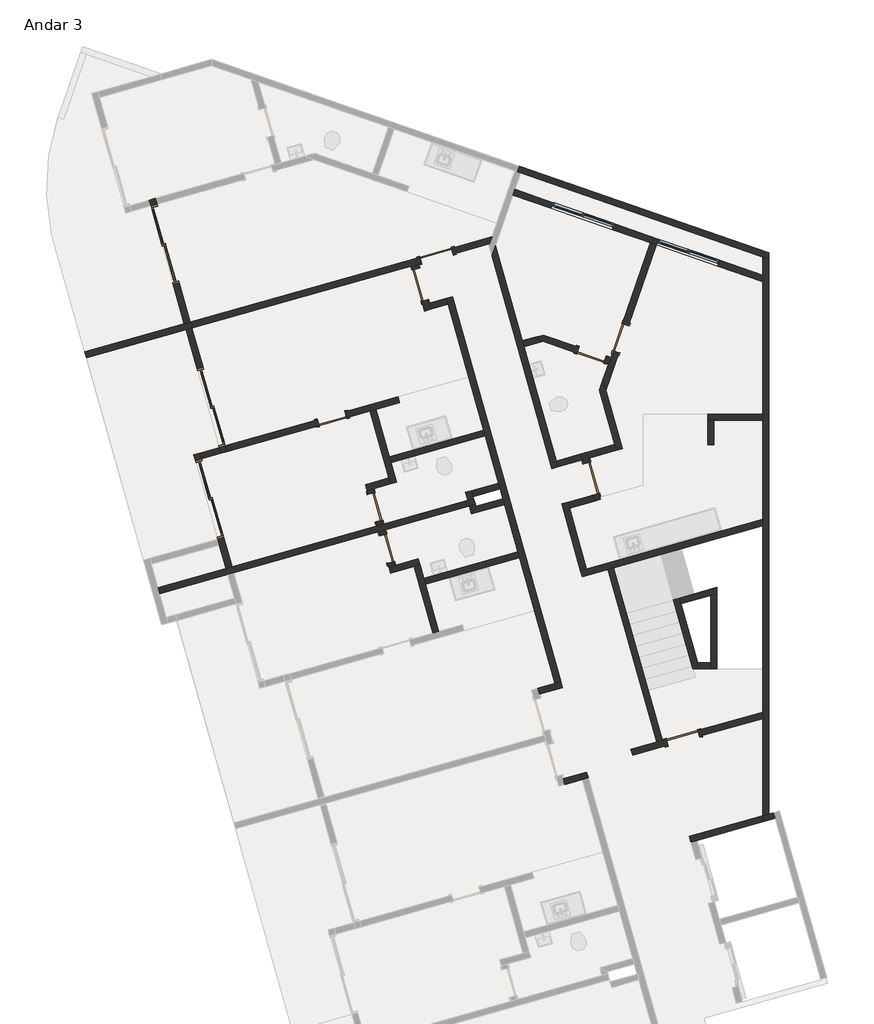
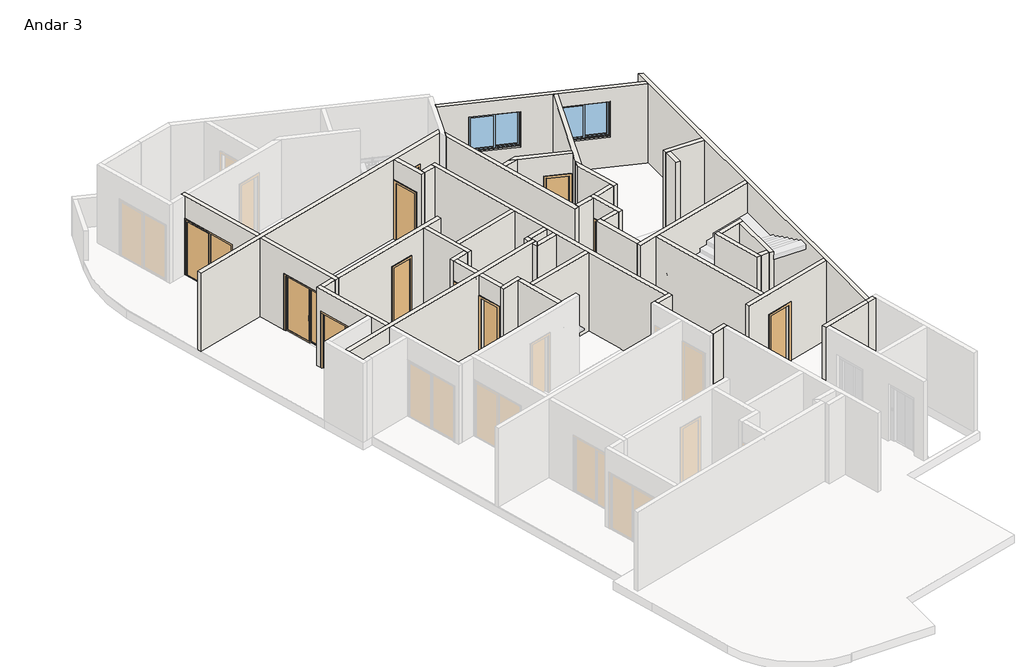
# One storey, part 2 of 3: 48 walls, 12 doors, 2 windows.
"""IFC4 building model written with IfcOpenShell, lengths in millimetres."""

from ifc_helpers import new_model, si_unit, frame, origin, place, context, project, spatial, polyline, outline, extrude, faceted_brep, transform, mapped, element, save
from components import p2_80cm_9d4be4ef, p2_80cm_083652d6, p3_70cm_ef4d15e3, p3_70cm_0a698c7c, p4_correr_200cm_eaaa0877, jx_160cm_e9e36a0c

model = new_model("IFC4")

# Units and contexts
model_context = context("Model", 3, world=origin())
ifc_project = project(units=[si_unit("LENGTHUNIT", "METRE", prefix="MILLI")], contexts=[model_context])

# Site, building, storey
site = spatial("IfcSite", under=ifc_project)
building = spatial("IfcBuilding", under=site)
storey = spatial("IfcBuildingStorey", under=building, Name="Andar 3", Elevation=59450.0)

# Doors
placement = place(None, origin())
p2_80cm_shape = p2_80cm_9d4be4ef(model_context)
element("IfcDoor", 1, ObjectType="M_Folha única1 : P2 - 80CM", at=placement, inside=storey, context=model_context, shape_type="MappedRepresentation", body=[
    mapped(p2_80cm_shape, transform((-83145.1128896, 30941.0402894, 59450.0), x_axis=(-0.9623628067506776, -0.2717679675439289, 0.0), y_axis=(0.2717679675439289, -0.9623628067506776, 0.0), z_axis=(0.0, 0.0, 1.0))),
])
element("IfcDoor", 2, ObjectType="M_Folha única1 : P2 - 80CM", at=placement, inside=storey, context=model_context, shape_type="MappedRepresentation", body=[
    mapped(p2_80cm_shape, transform((-79349.4097406, 25479.1041247, 59450.0), x_axis=(-0.27176796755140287, 0.962362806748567, 0.0), y_axis=(-0.962362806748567, -0.27176796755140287, 0.0), z_axis=(0.0, 0.0, 1.0))),
])
p2_80cm_2_shape = p2_80cm_083652d6(model_context)
element("IfcDoor", 3, ObjectType="M_Folha única1 : P2 - 80CM", at=placement, inside=storey, context=model_context, shape_type="MappedRepresentation", body=[
    mapped(p2_80cm_2_shape, transform((-83542.2049222, 30231.4150941, 59450.0), x_axis=(-0.2717679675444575, 0.9623628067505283, 0.0), y_axis=(-0.9623628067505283, -0.2717679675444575, 0.0), z_axis=(0.0, 0.0, 1.0))),
])
p3_70cm_shape = p3_70cm_ef4d15e3(model_context)
element("IfcDoor", 4, ObjectType="M_Folha única1 : P3 - 70CM", at=placement, inside=storey, context=model_context, shape_type="MappedRepresentation", body=[
    mapped(p3_70cm_shape, transform((-84650.97864, 24774.7108835, 59450.0), x_axis=(0.2717679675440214, -0.9623628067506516, 0.0), y_axis=(0.9623628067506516, 0.2717679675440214, 0.0), z_axis=(0.0, 0.0, 1.0))),
])
p3_70cm_2_shape = p3_70cm_0a698c7c(model_context)
element("IfcDoor", 5, ObjectType="M_Folha única1 : P3 - 70CM", at=placement, inside=storey, context=model_context, shape_type="MappedRepresentation", body=[
    mapped(p3_70cm_2_shape, transform((-84365.6222741, 23764.2299364, 59450.0), x_axis=(-0.2717679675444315, 0.9623628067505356, 0.0), y_axis=(-0.9623628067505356, -0.2717679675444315, 0.0), z_axis=(0.0, 0.0, 1.0))),
])
element("IfcDoor", 6, ObjectType="M_Folha única1 : P3 - 70CM", at=placement, inside=storey, context=model_context, shape_type="MappedRepresentation", body=[
    mapped(p3_70cm_2_shape, transform((-85705.4317558, 26944.8211633, 59450.0), x_axis=(0.9623628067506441, 0.2717679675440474, 0.0), y_axis=(-0.2717679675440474, 0.9623628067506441, 0.0), z_axis=(0.0, 0.0, 1.0))),
])
element("IfcDoor", 7, ObjectType="M_Folha única1 : P3 - 70CM", at=placement, inside=storey, context=model_context, shape_type="MappedRepresentation", body=[
    mapped(p3_70cm_2_shape, transform((-79346.1223746, 28509.6973665, 59450.0), x_axis=(0.9449109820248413, -0.32732741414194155, 0.0), y_axis=(0.32732741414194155, 0.9449109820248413, 0.0), z_axis=(0.0, 0.0, 1.0))),
])
element("IfcDoor", 8, ObjectType="M_Folha única1 : P3 - 70CM", at=placement, inside=storey, context=model_context, shape_type="MappedRepresentation", body=[
    mapped(p3_70cm_2_shape, transform((-78626.5662556, 28921.8732895, 59450.0), x_axis=(-0.32732741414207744, -0.9449109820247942, 0.0), y_axis=(0.9449109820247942, -0.32732741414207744, 0.0), z_axis=(0.0, 0.0, 1.0))),
])
p4_correr_200cm_shape = p4_correr_200cm_eaaa0877(model_context)
element("IfcDoor", 9, ObjectType="Porta de correr dupla envidraçada sem revestimento : P4 - CORRER - 200CM", at=placement, inside=storey, context=model_context, shape_type="MappedRepresentation", body=[
    mapped(p4_correr_200cm_shape, transform((-89799.7974026, 31217.9316171, 59450.0), x_axis=(0.27176796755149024, -0.9623628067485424, 0.0), y_axis=(0.9623628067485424, 0.27176796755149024, 0.0), z_axis=(0.0, 0.0, 1.0))),
])
element("IfcDoor", 10, ObjectType="Porta de correr dupla envidraçada sem revestimento : P4 - CORRER - 200CM", at=placement, inside=storey, context=model_context, shape_type="MappedRepresentation", body=[
    mapped(p4_correr_200cm_shape, transform((-88671.9603372, 27224.125969, 59450.0), x_axis=(-0.27176796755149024, 0.9623628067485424, 0.0), y_axis=(-0.9623628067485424, -0.27176796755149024, 0.0), z_axis=(0.0, 0.0, 1.0))),
])
element("IfcDoor", 11, ObjectType="Porta de correr dupla envidraçada sem revestimento : P4 - CORRER - 200CM", at=placement, inside=storey, context=model_context, shape_type="MappedRepresentation", body=[
    mapped(p4_correr_200cm_shape, transform((-88709.3738038, 24979.4758572, 59450.0), x_axis=(-0.2717679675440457, 0.9623628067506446, 0.0), y_axis=(-0.9623628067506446, -0.2717679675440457, 0.0), z_axis=(0.0, 0.0, 1.0))),
])
element("IfcDoor", 12, ObjectType="M_Folha única1 : PCF1 - 80CM", at=placement, inside=storey, context=model_context, shape_type="MappedRepresentation", body=[
    mapped(p2_80cm_shape, transform((-77103.5502958, 19127.1105693, 59450.0), x_axis=(-0.9623628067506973, -0.2717679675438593, 0.0), y_axis=(0.2717679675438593, -0.9623628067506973, 0.0), z_axis=(0.0, 0.0, 1.0))),
])

# Walls
element("IfcWall", 13, ObjectType="Básica .15 -  Interna", at=placement, inside=storey, context=model_context, shape_type="Brep", body=[
    faceted_brep([(-82901.0804648, 29892.9118737, 59450.0), (-82860.3152697, 29748.5574527, 59450.0), (-81990.6577736, 26668.9964711, 59450.0), (-81949.8925784, 26524.6420501, 59450.0), (-81623.7710174, 25369.806682, 59450.0), (-81583.0058223, 25225.452261, 59450.0), (-81515.0638304, 24984.8615593, 59450.0), (-81474.2986352, 24840.5071383, 59450.0), (-81148.1770742, 23685.6717702, 59450.0), (-81107.4118791, 23541.3173492, 59450.0), (-80237.7543829, 20461.7563676, 59450.0), (-80237.7543829, 20461.7563676, 62350.0), (-81107.4118791, 23541.3173492, 62350.0), (-81148.1770742, 23685.6717702, 62350.0), (-81474.2986352, 24840.5071383, 62350.0), (-81515.0638304, 24984.8615593, 62350.0), (-81583.0058223, 25225.452261, 62350.0), (-81623.7710174, 25369.806682, 62350.0), (-81949.8925784, 26524.6420501, 62350.0), (-81990.6577736, 26668.9964711, 62350.0), (-82860.3152697, 29748.5574527, 62350.0), (-82901.0804648, 29892.9118737, 62350.0), (-82756.7260438, 29933.6770689, 59450.0), (-82756.7260438, 29933.6770689, 62350.0), (-80093.3999619, 20502.5215627, 62350.0), (-80093.3999619, 20502.5215627, 59450.0)], [[[0, 1, 2, 3, 4, 5, 6, 7, 8, 9, 10, 11, 12, 13, 14, 15, 16, 17, 18, 19, 20, 21]], [[22, 23, 24, 25]], [[10, 9, 8, 7, 6, 5, 4, 3, 2, 1, 0, 22, 25]], [[21, 20, 19, 18, 17, 16, 15, 14, 13, 12, 11, 24, 23]], [[0, 21, 23, 22]], [[11, 10, 25, 24]]]),
])
element("IfcWall", 14, ObjectType="Básica .15 -  Interna", at=placement, inside=storey, context=model_context, shape_type="Brep", body=[
    faceted_brep([(-83750.2661164, 30692.2138999, 59450.0), (-83723.0893197, 30595.9776193, 59450.0), (-83723.0893197, 30595.9776193, 61550.0), (-83505.6749457, 29826.0873739, 61550.0), (-83505.6749457, 29826.0873739, 59450.0), (-83437.7329538, 29585.4966722, 59450.0), (-83437.7329538, 29585.4966722, 62350.0), (-83750.2661164, 30692.2138999, 62350.0), (-83578.7348987, 30636.7428144, 61550.0), (-83578.7348987, 30636.7428144, 59450.0), (-83605.9116954, 30732.9790951, 59450.0), (-83605.9116954, 30732.9790951, 62350.0), (-83334.1437279, 29770.6162883, 62350.0), (-83293.3785328, 29626.2618673, 62350.0), (-83293.3785328, 29626.2618673, 59450.0), (-83334.1437279, 29770.6162883, 59450.0), (-83361.3205246, 29866.852569, 59450.0), (-83361.3205246, 29866.852569, 61550.0)], [[[0, 1, 2, 3, 4, 5, 6, 7]], [[8, 9, 10, 11, 12, 13, 14, 15, 16, 17]], [[10, 9, 1, 0]], [[16, 15, 14, 5, 4]], [[7, 6, 13, 12, 11]], [[6, 5, 14, 13]], [[0, 7, 11, 10]], [[2, 1, 9, 8]], [[3, 2, 8, 17]], [[4, 3, 17, 16]]]),
])
element("IfcWall", 15, ObjectType="Básica .15 -  Interna", at=placement, inside=storey, context=model_context, shape_type="SweptSolid", body=[
    extrude(outline(polyline([(-82860.3152697, 29748.5574527), (-83293.3785328, 29626.2618673), (-83334.1437279, 29770.6162883), (-82901.0804648, 29892.9118737), (-82860.3152697, 29748.5574527)])), frame((0.0, 0.0, 59450.0), z_axis=(0.0, 0.0, 1.0), x_axis=(1.0, 0.0, 0.0)), (0.0, 0.0, 1.0), 2900.0),
])
element("IfcWall", 16, ObjectType="Básica .15 -  Interna", at=placement, inside=storey, context=model_context, shape_type="Brep", body=[
    faceted_brep([(-80093.3999619, 20502.5215627, 59450.0), (-80237.7543829, 20461.7563676, 59450.0), (-80670.817646, 20339.4607822, 59450.0), (-80670.817646, 20339.4607822, 62350.0), (-80237.7543829, 20461.7563676, 62350.0), (-80093.3999619, 20502.5215627, 62350.0), (-80052.6347668, 20358.1671417, 59450.0), (-80052.6347668, 20358.1671417, 62350.0), (-80630.0524508, 20195.1063612, 62350.0), (-80630.0524508, 20195.1063612, 59450.0)], [[[0, 1, 2, 3, 4, 5]], [[6, 7, 8, 9]], [[2, 1, 0, 6, 9]], [[5, 4, 3, 8, 7]], [[3, 2, 9, 8]], [[0, 5, 7, 6]]]),
])
element("IfcWall", 17, ObjectType="Básica .15 -  Interna", at=placement, inside=storey, context=model_context, shape_type="Brep", body=[
    faceted_brep([(-80004.9861255, 17981.6719056, 59450.0), (-79571.9228624, 18103.967491, 59450.0), (-79427.5684414, 18144.7326862, 59450.0), (-79427.5684414, 18144.7326862, 62350.0), (-79571.9228624, 18103.967491, 62350.0), (-80004.9861255, 17981.6719056, 62350.0), (-80045.7513206, 18126.0263266, 59450.0), (-80045.7513206, 18126.0263266, 62350.0), (-79468.3336366, 18289.0871072, 62350.0), (-79468.3336366, 18289.0871072, 59450.0)], [[[0, 1, 2, 3, 4, 5]], [[6, 7, 8, 9]], [[2, 1, 0, 6, 9]], [[5, 4, 3, 8, 7]], [[3, 2, 9, 8]], [[0, 5, 7, 6]]]),
])
element("IfcWall", 18, ObjectType="Básica .15 -  Interna", at=placement, inside=storey, context=model_context, shape_type="Brep", body=[
    faceted_brep([(-88305.9570711, 23274.9583478, 62350.0), (-88469.0178517, 23852.3760319, 62350.0), (-88509.7830468, 23996.7304529, 62350.0), (-89094.084177, 26065.8104874, 62350.0), (-89094.084177, 26065.8104874, 59450.0), (-89053.3189819, 25921.4560664, 59450.0), (-89053.3189819, 25921.4560664, 61550.0), (-88509.7830468, 23996.7304529, 61550.0), (-88509.7830468, 23996.7304529, 59450.0), (-88469.0178517, 23852.3760319, 59450.0), (-88305.9570711, 23274.9583478, 59450.0), (-88949.729756, 26106.5756825, 62350.0), (-88908.9645609, 25962.2212615, 62350.0), (-88161.6026501, 23315.723543, 62350.0), (-88161.6026501, 23315.723543, 59450.0), (-88365.4286258, 24037.495648, 59450.0), (-88365.4286258, 24037.495648, 61550.0), (-88908.9645609, 25962.2212615, 61550.0), (-88908.9645609, 25962.2212615, 59450.0), (-88949.729756, 26106.5756825, 59450.0)], [[[0, 1, 2, 3, 4, 5, 6, 7, 8, 9, 10]], [[11, 12, 13, 14, 15, 16, 17, 18, 19]], [[4, 19, 18, 5]], [[14, 10, 9, 8, 15]], [[3, 2, 1, 0, 13, 12, 11]], [[4, 3, 11, 19]], [[0, 10, 14, 13]], [[17, 6, 5, 18]], [[6, 17, 16, 7]], [[7, 16, 15, 8]]]),
])
element("IfcWall", 19, ObjectType="Básica .15 -  Interna", at=placement, inside=storey, context=model_context, shape_type="Brep", body=[
    faceted_brep([(-89143.3190618, 29169.2341801, 62350.0), (-88328.0151592, 26282.1457598, 62350.0), (-88287.249964, 26137.7913388, 62350.0), (-88287.249964, 26137.7913388, 59450.0), (-88328.0151592, 26282.1457598, 59450.0), (-88328.0151592, 26282.1457598, 61550.0), (-88871.5510943, 28206.8713733, 61550.0), (-88871.5510943, 28206.8713733, 59450.0), (-89143.3190618, 29169.2341801, 59450.0), (-88431.604385, 26097.0261437, 62350.0), (-88472.3695802, 26241.3805647, 62350.0), (-89287.6734828, 29128.468985, 62350.0), (-89287.6734828, 29128.468985, 59450.0), (-89015.9055153, 28166.1061782, 59450.0), (-89015.9055153, 28166.1061782, 61550.0), (-88472.3695802, 26241.3805647, 61550.0), (-88472.3695802, 26241.3805647, 59450.0), (-88431.604385, 26097.0261437, 59450.0)], [[[0, 1, 2, 3, 4, 5, 6, 7, 8]], [[9, 10, 11, 12, 13, 14, 15, 16, 17]], [[3, 17, 16, 4]], [[12, 8, 7, 13]], [[2, 1, 0, 11, 10, 9]], [[3, 2, 9, 17]], [[0, 8, 12, 11]], [[6, 14, 13, 7]], [[14, 6, 5, 15]], [[15, 5, 4, 16]]]),
])
element("IfcWall", 20, ObjectType="Básica .15 -  Interna", at=placement, inside=storey, context=model_context, shape_type="Brep", body=[
    faceted_brep([(-76904.7538909, 16570.3643175, 59450.0), (-76760.3994699, 16611.1295126, 59450.0), (-75147.8282189, 17066.5141226, 59450.0), (-75147.8282189, 17066.5141226, 62350.0), (-76760.3994699, 16611.1295126, 62350.0), (-76904.7538909, 16570.3643175, 62350.0), (-76945.5190861, 16714.7187385, 59450.0), (-76945.5190861, 16714.7187385, 62350.0), (-75147.8282189, 17222.3804954, 62350.0), (-75147.8282189, 17222.3804954, 59450.0)], [[[0, 1, 2, 3, 4, 5]], [[6, 7, 8, 9]], [[2, 1, 0, 6, 9]], [[5, 4, 3, 8, 7]], [[0, 5, 7, 6]], [[3, 2, 9, 8]]]),
])
element("IfcWall", 21, ObjectType="Básica .15 -  Interna", at=placement, inside=storey, context=model_context, shape_type="Brep", body=[
    faceted_brep([(-79570.9048554, 23078.5590693, 59450.0), (-78948.2127609, 23254.4051886, 59450.0), (-78803.8582924, 23295.1703972, 59450.0), (-75147.8282189, 24327.6207947, 59450.0), (-75147.8282189, 24327.6207947, 62350.0), (-78803.8582924, 23295.1703972, 62350.0), (-78948.2127609, 23254.4051886, 62350.0), (-79570.9048554, 23078.5590693, 62350.0), (-79611.6700506, 23222.9134903, 59450.0), (-79611.6700506, 23222.9134903, 62350.0), (-79467.3156296, 23263.6786855, 62350.0), (-75147.8282189, 24483.4871675, 62350.0), (-75147.8282189, 24483.4871675, 59450.0), (-79467.3156296, 23263.6786855, 59450.0)], [[[0, 1, 2, 3, 4, 5, 6, 7]], [[8, 9, 10, 11, 12, 13]], [[3, 2, 1, 0, 8, 13, 12]], [[7, 6, 5, 4, 11, 10, 9]], [[0, 7, 9, 8]], [[4, 3, 12, 11]]]),
])
element("IfcWall", 22, ObjectType="Básica .15 -  Interna", at=placement, inside=storey, context=model_context, shape_type="SweptSolid", body=[
    extrude(outline(polyline([(-77749.4687652, 19022.6385875), (-78948.2127609, 23254.4051886), (-78803.8582924, 23295.1703972), (-77605.1142967, 19063.4037961), (-77749.4687652, 19022.6385875)])), frame((0.0, 0.0, 59450.0), z_axis=(0.0, 0.0, 1.0), x_axis=(1.0, 0.0, 0.0)), (0.0, 0.0, 1.0), 2900.0),
])
element("IfcWall", 23, ObjectType="Básica .15 -  Interna", at=placement, inside=storey, context=model_context, shape_type="Brep", body=[
    faceted_brep([(-77508.878016, 19090.5805928, 61550.0), (-77508.878016, 19090.5805928, 59450.0), (-77605.1142967, 19063.4037961, 59450.0), (-77749.4687652, 19022.6385875, 59450.0), (-78375.5945972, 18845.8227925, 59450.0), (-78375.5945972, 18845.8227925, 62350.0), (-77749.4687652, 19022.6385875, 62350.0), (-77605.1142967, 19063.4037961, 62350.0), (-75147.8282189, 19757.3329862, 62350.0), (-75147.8282189, 19757.3329862, 59450.0), (-76738.9877706, 19307.9949669, 59450.0), (-76738.9877706, 19307.9949669, 61550.0), (-78334.829402, 18701.4683715, 59450.0), (-77468.1128209, 18946.2261718, 59450.0), (-77468.1128209, 18946.2261718, 61550.0), (-76698.2225755, 19163.6405459, 61550.0), (-76698.2225755, 19163.6405459, 59450.0), (-75147.8282189, 19601.4666134, 59450.0), (-75147.8282189, 19601.4666134, 62350.0), (-78334.829402, 18701.4683715, 62350.0)], [[[0, 1, 2, 3, 4, 5, 6, 7, 8, 9, 10, 11]], [[12, 13, 14, 15, 16, 17, 18, 19]], [[10, 9, 17, 16]], [[4, 3, 2, 1, 13, 12]], [[5, 4, 12, 19]], [[8, 7, 6, 5, 19, 18]], [[14, 13, 1, 0]], [[15, 14, 0, 11]], [[16, 15, 11, 10]], [[9, 8, 18, 17]]]),
])
element("IfcWall", 24, ObjectType="Básica .15 - Externa", at=placement, inside=storey, context=model_context, shape_type="Brep", body=[
    faceted_brep([(-75147.8282189, 30909.9128092, 62350.0), (-75147.8282189, 30909.9128092, 59450.0), (-75147.8282189, 30461.6117638, 59450.0), (-75147.8282189, 30302.8666514, 59450.0), (-75147.8282189, 27060.8243598, 59450.0), (-75147.8282189, 26910.8243598, 59450.0), (-75147.8282189, 24483.4871675, 59450.0), (-75147.8282189, 24327.6207947, 59450.0), (-75147.8282189, 19757.3329862, 59450.0), (-75147.8282189, 19601.4666134, 59450.0), (-75147.8282189, 17222.3804954, 59450.0), (-75147.8282189, 17222.3804954, 62350.0), (-75147.8282189, 19601.4666134, 62350.0), (-75147.8282189, 19757.3329862, 62350.0), (-75147.8282189, 24327.6207947, 62350.0), (-75147.8282189, 24483.4871675, 62350.0), (-75147.8282189, 26910.8243598, 62350.0), (-75147.8282189, 27060.8243598, 62350.0), (-75147.8282189, 30302.8666514, 62350.0), (-75147.8282189, 30461.6117638, 62350.0), (-74997.8282189, 30857.9511821, 59450.0), (-74997.8282189, 30857.9511821, 60750.0), (-74997.8282189, 30857.9511821, 62050.0), (-74997.8282189, 30857.9511821, 62350.0), (-74997.8282189, 17264.7399828, 62350.0), (-74997.8282189, 17264.7399828, 59450.0)], [[[0, 1, 2, 3, 4, 5, 6, 7, 8, 9, 10, 11, 12, 13, 14, 15, 16, 17, 18, 19]], [[20, 21, 22, 23, 24, 25]], [[10, 9, 8, 7, 6, 5, 4, 3, 2, 1, 20, 25]], [[0, 19, 18, 17, 16, 15, 14, 13, 12, 11, 24, 23]], [[11, 10, 25, 24]], [[0, 23, 22, 21, 20, 1]]]),
])
element("IfcWall", 25, ObjectType="Básica .15 -  Interna", at=placement, inside=storey, context=model_context, shape_type="Brep", body=[
    faceted_brep([(-80073.6755954, 24858.9302618, 59450.0), (-79611.6700506, 23222.9134903, 59450.0), (-79611.6700506, 23222.9134903, 62350.0), (-80073.6755954, 24858.9302618, 62350.0), (-79929.3211744, 24899.695457, 59450.0), (-79929.3211744, 24899.695457, 62350.0), (-79888.5559793, 24755.3410359, 62350.0), (-79467.3156296, 23263.6786855, 62350.0), (-79467.3156296, 23263.6786855, 59450.0), (-79888.5559793, 24755.3410359, 59450.0)], [[[0, 1, 2, 3]], [[4, 5, 6, 7, 8, 9]], [[1, 0, 4, 9, 8]], [[3, 2, 7, 6, 5]], [[0, 3, 5, 4]], [[2, 1, 8, 7]]]),
])
element("IfcWall", 26, ObjectType="Básica .15 -  Interna", at=placement, inside=storey, context=model_context, shape_type="Brep", body=[
    faceted_brep([(-79888.5559793, 24755.3410359, 59450.0), (-79272.1145689, 24929.4219834, 59450.0), (-79272.1145689, 24929.4219834, 62350.0), (-79888.5559793, 24755.3410359, 62350.0), (-79929.3211744, 24899.695457, 59450.0), (-79929.3211744, 24899.695457, 62350.0), (-79312.8797641, 25073.7764044, 62350.0), (-79312.8797641, 25073.7764044, 61550.0), (-79312.8797641, 25073.7764044, 59450.0)], [[[0, 1, 2, 3]], [[4, 5, 6, 7, 8]], [[1, 0, 4, 8]], [[3, 2, 6, 5]], [[0, 3, 5, 4]], [[2, 1, 8, 7, 6]]]),
])
element("IfcWall", 27, ObjectType="Básica .15 -  Interna", at=placement, inside=storey, context=model_context, shape_type="Brep", body=[
    faceted_brep([(-79598.23613, 26084.2573515, 59450.0), (-79557.4709349, 25939.9029305, 59450.0), (-79530.2941381, 25843.6666498, 59450.0), (-79530.2941381, 25843.6666498, 61550.0), (-79312.8797641, 25073.7764044, 61550.0), (-79312.8797641, 25073.7764044, 59450.0), (-79272.1145689, 24929.4219834, 59450.0), (-79272.1145689, 24929.4219834, 62350.0), (-79312.8797641, 25073.7764044, 62350.0), (-79557.4709349, 25939.9029305, 62350.0), (-79598.23613, 26084.2573515, 62350.0), (-79385.9397171, 25884.4318449, 61550.0), (-79385.9397171, 25884.4318449, 59450.0), (-79413.1165138, 25980.6681256, 59450.0), (-79453.881709, 26125.0225466, 59450.0), (-79453.881709, 26125.0225466, 62350.0), (-79413.1165138, 25980.6681256, 62350.0), (-79127.7601479, 24970.1871785, 62350.0), (-79127.7601479, 24970.1871785, 59450.0), (-79168.5253431, 25114.5415995, 59450.0), (-79168.5253431, 25114.5415995, 61550.0)], [[[0, 1, 2, 3, 4, 5, 6, 7, 8, 9, 10]], [[11, 12, 13, 14, 15, 16, 17, 18, 19, 20]], [[19, 18, 6, 5]], [[14, 13, 12, 2, 1, 0]], [[10, 9, 8, 7, 17, 16, 15]], [[7, 6, 18, 17]], [[0, 10, 15, 14]], [[3, 2, 12, 11]], [[4, 3, 11, 20]], [[5, 4, 20, 19]]]),
])
element("IfcWall", 28, ObjectType="Básica .15 -  Interna", at=placement, inside=storey, context=model_context, shape_type="Brep", body=[
    faceted_brep([(-81789.2550074, 30934.0017027, 59450.0), (-80318.2667662, 25725.0567879, 59450.0), (-80318.2667662, 25725.0567879, 62350.0), (-81789.2550074, 30934.0017027, 62350.0), (-81703.3880158, 31181.8778654, 59450.0), (-81703.3880158, 31181.8778654, 62350.0), (-81045.1503443, 28850.9797144, 62350.0), (-81004.3851492, 28706.6252933, 62350.0), (-80214.6775403, 25910.176404, 62350.0), (-80173.9123452, 25765.821983, 62350.0), (-80173.9123452, 25765.821983, 59450.0), (-80214.6775403, 25910.176404, 59450.0), (-81004.3851492, 28706.6252933, 59450.0), (-81045.1503443, 28850.9797144, 59450.0)], [[[0, 1, 2, 3]], [[4, 5, 6, 7, 8, 9, 10, 11, 12, 13]], [[1, 0, 4, 13, 12, 11, 10]], [[3, 2, 9, 8, 7, 6, 5]], [[0, 3, 5, 4]], [[2, 1, 10, 9]]]),
])
element("IfcWall", 29, ObjectType="Básica .15 -  Interna", at=placement, inside=storey, context=model_context, shape_type="Brep", body=[
    faceted_brep([(-88908.9645609, 25962.2212615, 59450.0), (-88431.604385, 26097.0261437, 59450.0), (-88431.604385, 26097.0261437, 62350.0), (-88908.9645609, 25962.2212615, 62350.0), (-88908.9645609, 25962.2212615, 61550.0), (-88949.729756, 26106.5756825, 59450.0), (-88949.729756, 26106.5756825, 62350.0), (-88472.3695802, 26241.3805647, 62350.0), (-88472.3695802, 26241.3805647, 59450.0)], [[[0, 1, 2, 3, 4]], [[5, 6, 7, 8]], [[1, 0, 5, 8]], [[3, 2, 7, 6]], [[0, 4, 3, 6, 5]], [[2, 1, 8, 7]]]),
])
element("IfcWall", 30, ObjectType="Básica .15 -  Interna", at=placement, inside=storey, context=model_context, shape_type="SweptSolid", body=[
    extrude(outline(polyline([(-79557.4709349, 25939.9029305), (-80173.9123452, 25765.821983), (-80214.6775403, 25910.176404), (-79598.23613, 26084.2573515), (-79557.4709349, 25939.9029305)])), frame((0.0, 0.0, 59450.0), z_axis=(0.0, 0.0, 1.0), x_axis=(1.0, 0.0, 0.0)), (0.0, 0.0, 1.0), 2900.0),
])
element("IfcWall", 31, ObjectType="Básica .15 -  Interna", at=placement, inside=storey, context=model_context, shape_type="Brep", body=[
    faceted_brep([(-91725.2428613, 28440.1077234, 59450.0), (-89287.6734828, 29128.468985, 59450.0), (-89143.3190618, 29169.2341801, 59450.0), (-83750.2661164, 30692.2138999, 59450.0), (-83605.9116954, 30732.9790951, 59450.0), (-83509.6754148, 30760.1558918, 59450.0), (-83509.6754148, 30760.1558918, 61550.0), (-82739.7851694, 30977.5702659, 61550.0), (-82739.7851694, 30977.5702659, 59450.0), (-81845.4155775, 31230.1371819, 59450.0), (-81845.4155775, 31230.1371819, 62350.0), (-83605.9116954, 30732.9790951, 62350.0), (-83750.2661164, 30692.2138999, 62350.0), (-89143.3190618, 29169.2341801, 62350.0), (-89287.6734828, 29128.468985, 62350.0), (-91725.2428613, 28440.1077234, 62350.0), (-83550.4406099, 30904.5103128, 61550.0), (-83550.4406099, 30904.5103128, 59450.0), (-89184.084257, 29313.5886011, 59450.0), (-89328.438678, 29272.823406, 59450.0), (-91766.0080564, 28584.4621444, 59450.0), (-91766.0080564, 28584.4621444, 62350.0), (-89328.438678, 29272.823406, 62350.0), (-89184.084257, 29313.5886011, 62350.0), (-81785.5670817, 31402.9045654, 62350.0), (-81785.5670817, 31402.9045654, 59450.0), (-82780.5503645, 31121.9246869, 59450.0), (-82780.5503645, 31121.9246869, 61550.0)], [[[0, 1, 2, 3, 4, 5, 6, 7, 8, 9, 10, 11, 12, 13, 14, 15]], [[16, 17, 18, 19, 20, 21, 22, 23, 24, 25, 26, 27]], [[26, 25, 9, 8]], [[20, 19, 18, 17, 5, 4, 3, 2, 1, 0]], [[15, 14, 13, 12, 11, 10, 24, 23, 22, 21]], [[0, 15, 21, 20]], [[10, 9, 25, 24]], [[6, 5, 17, 16]], [[7, 6, 16, 27]], [[8, 7, 27, 26]]]),
])
element("IfcWall", 32, ObjectType="Básica .15 -  Interna", at=placement, inside=storey, context=model_context, shape_type="Brep", body=[
    faceted_brep([(-90040.1533547, 32345.0314424, 62350.0), (-89999.3881596, 32200.6770214, 62350.0), (-89184.084257, 29313.5886011, 62350.0), (-89184.084257, 29313.5886011, 59450.0), (-89455.8522245, 30275.9514079, 59450.0), (-89455.8522245, 30275.9514079, 61550.0), (-89999.3881596, 32200.6770214, 61550.0), (-89999.3881596, 32200.6770214, 59450.0), (-90040.1533547, 32345.0314424, 59450.0), (-89328.438678, 29272.823406, 62350.0), (-90143.7425806, 32159.9118263, 62350.0), (-90184.5077758, 32304.2662473, 62350.0), (-90184.5077758, 32304.2662473, 59450.0), (-90143.7425806, 32159.9118262, 59450.0), (-90143.7425806, 32159.9118262, 61550.0), (-89600.2066455, 30235.1862128, 61550.0), (-89600.2066455, 30235.1862128, 59450.0), (-89328.438678, 29272.823406, 59450.0)], [[[0, 1, 2, 3, 4, 5, 6, 7, 8]], [[9, 10, 11, 12, 13, 14, 15, 16, 17]], [[12, 8, 7, 13]], [[3, 17, 16, 4]], [[2, 1, 0, 11, 10, 9]], [[0, 8, 12, 11]], [[3, 2, 9, 17]], [[15, 5, 4, 16]], [[5, 15, 14, 6]], [[6, 14, 13, 7]]]),
])
element("IfcWall", 33, ObjectType="Básica .15 -  Interna", at=placement, inside=storey, context=model_context, shape_type="Brep", body=[
    faceted_brep([(-89936.6922366, 22658.5779377, 59450.0), (-88265.191876, 23130.6039268, 59450.0), (-88120.837455, 23171.369122, 59450.0), (-84560.09507, 24176.9106019, 59450.0), (-84415.740649, 24217.675797, 59450.0), (-82192.6825654, 24845.459802, 59450.0), (-82192.6825654, 24845.459802, 62350.0), (-84415.740649, 24217.675797, 62350.0), (-84560.09507, 24176.9106019, 62350.0), (-88120.837455, 23171.369122, 62350.0), (-88265.191876, 23130.6039268, 62350.0), (-89936.6922366, 22658.5779377, 62350.0), (-89977.4574318, 22802.9323587, 59450.0), (-89977.4574318, 22802.9323587, 62350.0), (-88305.9570711, 23274.9583478, 62350.0), (-88161.6026501, 23315.723543, 62350.0), (-84600.8602651, 24321.2650229, 62350.0), (-84456.5058441, 24362.030218, 62350.0), (-82233.4477605, 24989.814223, 62350.0), (-82233.4477605, 24989.814223, 59450.0), (-84456.5058441, 24362.030218, 59450.0), (-84600.8602651, 24321.2650229, 59450.0), (-88161.6026501, 23315.723543, 59450.0), (-88305.9570711, 23274.9583478, 59450.0)], [[[0, 1, 2, 3, 4, 5, 6, 7, 8, 9, 10, 11]], [[12, 13, 14, 15, 16, 17, 18, 19, 20, 21, 22, 23]], [[5, 4, 3, 2, 1, 0, 12, 23, 22, 21, 20, 19]], [[6, 5, 19, 18]], [[11, 10, 9, 8, 7, 6, 18, 17, 16, 15, 14, 13]], [[0, 11, 13, 12]]]),
])
element("IfcWall", 34, ObjectType="Básica .15 -  Interna", at=placement, inside=storey, context=model_context, shape_type="Brep", body=[
    faceted_brep([(-81272.8781344, 32424.6503839, 59450.0), (-77897.5766162, 31255.4093243, 59450.0), (-77755.8399689, 31206.3102121, 59450.0), (-75147.8282189, 30302.8666514, 59450.0), (-75147.8282189, 30302.8666514, 62350.0), (-77755.8399689, 31206.3102121, 62350.0), (-77897.5766162, 31255.4093243, 62350.0), (-81272.8781344, 32424.6503839, 62350.0), (-78829.2985897, 31578.1679228, 60550.0), (-80341.1561609, 32101.8917854, 60550.0), (-80341.1561609, 32101.8917854, 61850.0), (-78829.2985897, 31578.1679228, 61850.0), (-76243.9823976, 30682.5863495, 60550.0), (-77755.8399689, 31206.3102121, 60550.0), (-77755.8399689, 31206.3102121, 61850.0), (-76243.9823976, 30682.5863495, 61850.0), (-81223.7790223, 32566.3870312, 59450.0), (-81223.7790223, 32566.3870312, 62350.0), (-75147.8282189, 30461.6117638, 62350.0), (-75147.8282189, 30461.6117638, 59450.0), (-78780.1994776, 31719.9045701, 60550.0), (-78780.1994776, 31719.9045701, 61850.0), (-80292.0570488, 32243.6284327, 61850.0), (-80292.0570488, 32243.6284327, 60550.0), (-76194.8832855, 30824.3229968, 60550.0), (-76194.8832855, 30824.3229968, 61850.0), (-77706.7408568, 31348.0468595, 61850.0), (-77706.7408568, 31348.0468595, 60550.0)], [[[0, 1, 2, 3, 4, 5, 6, 7], [8, 9, 10, 11], [12, 13, 14, 15]], [[16, 17, 18, 19], [20, 21, 22, 23], [24, 25, 26, 27]], [[3, 2, 1, 0, 16, 19]], [[7, 6, 5, 4, 18, 17]], [[0, 7, 17, 16]], [[21, 20, 8, 11]], [[22, 21, 11, 10]], [[23, 22, 10, 9]], [[20, 23, 9, 8]], [[25, 24, 12, 15]], [[26, 25, 15, 14]], [[27, 26, 14, 13]], [[24, 27, 13, 12]], [[4, 3, 19, 18]]]),
])
element("IfcWall", 35, ObjectType="Básica .15 - Externa", at=placement, inside=storey, context=model_context, shape_type="Brep", body=[
    faceted_brep([(-81156.3583355, 32991.3328194, 60750.0), (-81156.3583355, 32991.3328194, 59450.0), (-81156.3583355, 32991.3328194, 59150.0), (-81085.1216301, 32966.655652, 59150.0), (-74997.8282189, 30857.9511821, 59150.0), (-74997.8282189, 30857.9511821, 59450.0), (-74997.8282189, 30857.9511821, 60750.0), (-81085.1216301, 32966.655652, 60750.0), (-81107.2592234, 33133.0694667, 59150.0), (-81107.2592234, 33133.0694667, 59450.0), (-81107.2592234, 33133.0694667, 60750.0), (-81036.022518, 33108.3922993, 60750.0), (-74997.8282189, 31016.6962944, 60750.0), (-74997.8282189, 31016.6962944, 59150.0), (-81036.022518, 33108.3922993, 59150.0)], [[[0, 1, 2, 3, 4, 5, 6, 7]], [[8, 9, 10, 11, 12, 13, 14]], [[4, 3, 2, 8, 14, 13]], [[0, 7, 6, 12, 11, 10]], [[0, 10, 9, 8, 2, 1]], [[4, 13, 12, 6, 5]]]),
])
element("IfcWall", 36, ObjectType="Básica .15 -  Interna", at=placement, inside=storey, context=model_context, shape_type="SweptSolid", body=[
    extrude(outline(polyline([(-82179.094167, 24797.3416617), (-81515.0638304, 24984.8615593), (-81474.2986352, 24840.5071383), (-82282.6833929, 24612.2220455), (-82179.094167, 24797.3416617)])), frame((0.0, 0.0, 59450.0), z_axis=(0.0, 0.0, 1.0), x_axis=(1.0, 0.0, 0.0)), (0.0, 0.0, 1.0), 2900.0),
])
element("IfcWall", 37, ObjectType="Básica .15 -  Interna", at=placement, inside=storey, context=model_context, shape_type="SweptSolid", body=[
    extrude(outline(polyline([(-82192.6825654, 24845.459802), (-82179.094167, 24797.3416617), (-82282.6833929, 24612.2220455), (-82337.0369864, 24804.6946069), (-82192.6825654, 24845.459802)])), frame((0.0, 0.0, 59450.0), z_axis=(0.0, 0.0, 1.0), x_axis=(1.0, 0.0, 0.0)), (0.0, 0.0, 1.0), 2900.0),
])
element("IfcWall", 38, ObjectType="Básica .15 -  Interna", at=placement, inside=storey, context=model_context, shape_type="Brep", body=[
    faceted_brep([(-83593.7317942, 23514.6100515, 59450.0), (-84171.1494782, 23351.5492709, 59450.0), (-84315.5038992, 23310.7840758, 59450.0), (-84315.5038992, 23310.7840758, 62350.0), (-84171.1494782, 23351.5492709, 62350.0), (-83593.7317942, 23514.6100515, 62350.0), (-83552.966599, 23370.2556304, 59450.0), (-83552.966599, 23370.2556304, 62350.0), (-83697.32102, 23329.4904353, 62350.0), (-84274.7387041, 23166.4296548, 62350.0), (-84274.7387041, 23166.4296548, 59450.0), (-83697.32102, 23329.4904353, 59450.0)], [[[0, 1, 2, 3, 4, 5]], [[6, 7, 8, 9, 10, 11]], [[2, 1, 0, 6, 11, 10]], [[5, 4, 3, 9, 8, 7]], [[0, 5, 7, 6]], [[3, 2, 10, 9]]]),
])
element("IfcWall", 39, ObjectType="Básica .15 -  Interna", at=placement, inside=storey, context=model_context, shape_type="Brep", body=[
    faceted_brep([(-83090.9610542, 21734.238859, 59450.0), (-83417.0826153, 22889.0742271, 59450.0), (-83457.8478104, 23033.4286481, 59450.0), (-83552.966599, 23370.2556304, 59450.0), (-83552.966599, 23370.2556304, 62350.0), (-83457.8478104, 23033.4286481, 62350.0), (-83417.0826153, 22889.0742271, 62350.0), (-83090.9610542, 21734.238859, 62350.0), (-83235.3154752, 21693.4736638, 59450.0), (-83235.3154752, 21693.4736638, 62350.0), (-83697.32102, 23329.4904353, 62350.0), (-83697.32102, 23329.4904353, 59450.0)], [[[0, 1, 2, 3, 4, 5, 6, 7]], [[8, 9, 10, 11]], [[3, 2, 1, 0, 8, 11]], [[7, 6, 5, 4, 10, 9]], [[0, 7, 9, 8]], [[4, 3, 11, 10]]]),
])
element("IfcWall", 40, ObjectType="Básica .15 -  Interna", at=placement, inside=storey, context=model_context, shape_type="SweptSolid", body=[
    extrude(outline(polyline([(-83457.8478104, 23033.4286481), (-81148.1770742, 23685.6717702), (-81107.4118791, 23541.3173492), (-83417.0826153, 22889.0742271), (-83457.8478104, 23033.4286481)])), frame((0.0, 0.0, 59450.0), z_axis=(0.0, 0.0, 1.0), x_axis=(1.0, 0.0, 0.0)), (0.0, 0.0, 1.0), 2900.0),
])
element("IfcWall", 41, ObjectType="Básica .15 -  Interna", at=placement, inside=storey, context=model_context, shape_type="SweptSolid", body=[
    extrude(outline(polyline([(150.0, 0.0), (250.0, 0.0), (250.0, -2100.0), (950.0, -2100.0), (950.0, 0.0), (1050.0, 0.0), (1050.0, -2900.0), (150.0, -2900.0), (150.0, 0.0)])), frame((-84600.8602651, 24321.2650229, 59450.0), z_axis=(0.9623628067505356, 0.2717679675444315, 0.0), x_axis=(0.2717679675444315, -0.9623628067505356, 0.0)), (0.0, 0.0, 1.0), 150.0),
])
element("IfcWall", 42, ObjectType="Básica .15 -  Interna", at=placement, inside=storey, context=model_context, shape_type="Brep", body=[
    faceted_brep([(-84770.8044918, 27130.823522, 59450.0), (-84308.798947, 25494.8067505, 59450.0), (-84268.0337519, 25350.4523295, 59450.0), (-84268.0337519, 25350.4523295, 62350.0), (-84308.798947, 25494.8067505, 62350.0), (-84770.8044918, 27130.823522, 62350.0), (-84626.4500708, 27171.5887171, 59450.0), (-84626.4500708, 27171.5887171, 62350.0), (-84300.3285098, 26016.753349, 62350.0), (-84259.5633146, 25872.398928, 62350.0), (-84123.6793309, 25391.2175246, 62350.0), (-84123.6793309, 25391.2175246, 59450.0), (-84259.5633146, 25872.398928, 59450.0), (-84300.3285098, 26016.753349, 59450.0)], [[[0, 1, 2, 3, 4, 5]], [[6, 7, 8, 9, 10, 11, 12, 13]], [[2, 1, 0, 6, 13, 12, 11]], [[5, 4, 3, 10, 9, 8, 7]], [[3, 2, 11, 10]], [[0, 5, 7, 6]]]),
])
element("IfcWall", 43, ObjectType="Básica .15 -  Interna", at=placement, inside=storey, context=model_context, shape_type="SweptSolid", body=[
    extrude(outline(polyline([(-84300.3285098, 26016.753349), (-81990.6577736, 26668.9964711), (-81949.8925784, 26524.6420501), (-84259.5633146, 25872.398928), (-84300.3285098, 26016.753349)])), frame((0.0, 0.0, 59450.0), z_axis=(0.0, 0.0, 1.0), x_axis=(1.0, 0.0, 0.0)), (0.0, 0.0, 1.0), 2900.0),
])
element("IfcWall", 44, ObjectType="Básica .15 -  Interna", at=placement, inside=storey, context=model_context, shape_type="Brep", body=[
    faceted_brep([(-84308.798947, 25494.8067505, 59450.0), (-84886.2166311, 25331.74597, 59450.0), (-84886.2166311, 25331.74597, 62350.0), (-84308.798947, 25494.8067505, 62350.0), (-84268.0337519, 25350.4523295, 59450.0), (-84268.0337519, 25350.4523295, 62350.0), (-84701.0970149, 25228.1567441, 62350.0), (-84845.4514359, 25187.391549, 62350.0), (-84845.4514359, 25187.391549, 59450.0), (-84701.0970149, 25228.1567441, 59450.0)], [[[0, 1, 2, 3]], [[4, 5, 6, 7, 8, 9]], [[1, 0, 4, 9, 8]], [[3, 2, 7, 6, 5]], [[2, 1, 8, 7]], [[0, 3, 5, 4]]]),
])
element("IfcWall", 45, ObjectType="Básica .15 -  Interna", at=placement, inside=storey, context=model_context, shape_type="SweptSolid", body=[
    extrude(outline(polyline([(800.0, -2100.0), (800.0, 0.0), (900.0, 0.0), (900.0, -2900.0), (0.0, -2900.0), (0.0, 0.0), (100.0, 0.0), (100.0, -2100.0), (800.0, -2100.0)])), frame((-84845.4514359, 25187.391549, 59450.0), z_axis=(0.9623628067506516, 0.2717679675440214, 0.0), x_axis=(0.2717679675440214, -0.9623628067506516, 0.0)), (0.0, 0.0, 1.0), 150.0),
])
element("IfcWall", 46, ObjectType="Básica .15 -  Interna", at=placement, inside=storey, context=model_context, shape_type="Brep", body=[
    faceted_brep([(-82432.1557751, 25141.5215893, 59450.0), (-82377.8021816, 24949.0490279, 59450.0), (-82377.8021816, 24949.0490279, 62350.0), (-82432.1557751, 25141.5215893, 62350.0), (-82287.801354, 25182.2867844, 59450.0), (-82287.801354, 25182.2867844, 62350.0), (-82247.0361589, 25037.9323634, 62350.0), (-82233.4477605, 24989.814223, 62350.0), (-82233.4477605, 24989.814223, 59450.0), (-82247.0361589, 25037.9323634, 59450.0)], [[[0, 1, 2, 3]], [[4, 5, 6, 7, 8, 9]], [[1, 0, 4, 9, 8]], [[2, 1, 8, 7]], [[3, 2, 7, 6, 5]], [[0, 3, 5, 4]]]),
])
element("IfcWall", 47, ObjectType="Básica .15 -  Interna", at=placement, inside=storey, context=model_context, shape_type="SweptSolid", body=[
    extrude(outline(polyline([(-81583.0058223, 25225.452261), (-82247.0361589, 25037.9323634), (-82287.801354, 25182.2867844), (-81623.7710174, 25369.806682), (-81583.0058223, 25225.452261)])), frame((0.0, 0.0, 59450.0), z_axis=(0.0, 0.0, 1.0), x_axis=(1.0, 0.0, 0.0)), (0.0, 0.0, 1.0), 2900.0),
])
element("IfcWall", 48, ObjectType="Básica .15 -  Interna", at=placement, inside=storey, context=model_context, shape_type="Brep", body=[
    faceted_brep([(-76493.6479314, 26910.8243598, 59450.0), (-76343.6479314, 26910.8243598, 59450.0), (-75147.8282189, 26910.8243598, 59450.0), (-75147.8282189, 26910.8243598, 62350.0), (-76343.6479314, 26910.8243598, 62350.0), (-76493.6479314, 26910.8243598, 62350.0), (-76493.6479314, 27060.8243598, 59450.0), (-76493.6479314, 27060.8243598, 62350.0), (-75147.8282189, 27060.8243598, 62350.0), (-75147.8282189, 27060.8243598, 59450.0)], [[[0, 1, 2, 3, 4, 5]], [[6, 7, 8, 9]], [[2, 1, 0, 6, 9]], [[5, 4, 3, 8, 7]], [[0, 5, 7, 6]], [[3, 2, 9, 8]]]),
])
element("IfcWall", 49, ObjectType="Básica .15 -  Interna", at=placement, inside=storey, context=model_context, shape_type="SweptSolid", body=[
    extrude(outline(polyline([(-76343.6479314, 26910.8243598), (-76343.6479314, 26310.8243598), (-76493.6479314, 26310.8243598), (-76493.6479314, 26910.8243598), (-76343.6479314, 26910.8243598)])), frame((0.0, 0.0, 59450.0), z_axis=(0.0, 0.0, 1.0), x_axis=(1.0, 0.0, 0.0)), (0.0, 0.0, 1.0), 2900.0),
])
element("IfcWall", 50, ObjectType="Básica .15 -  Interna", at=placement, inside=storey, context=model_context, shape_type="Brep", body=[
    faceted_brep([(-78877.464657, 28426.7218055, 59450.0), (-78990.8539749, 28466.0010952, 59450.0), (-78990.8539749, 28466.0010952, 61550.0), (-79652.2916623, 28695.1302851, 61550.0), (-79652.2916623, 28695.1302851, 59450.0), (-80525.6718652, 28997.6786614, 59450.0), (-80525.6718652, 28997.6786614, 62350.0), (-78877.464657, 28426.7218055, 62350.0), (-79039.953087, 28324.2644479, 61550.0), (-79039.953087, 28324.2644479, 59450.0), (-78926.5637691, 28284.9851582, 59450.0), (-78926.5637691, 28284.9851582, 62350.0), (-80530.2499593, 28840.5194505, 62350.0), (-80778.126122, 28926.3864421, 62350.0), (-80778.126122, 28926.3864421, 59450.0), (-80530.2499593, 28840.5194505, 59450.0), (-79701.3907744, 28553.3936378, 59450.0), (-79701.3907744, 28553.3936378, 61550.0)], [[[0, 1, 2, 3, 4, 5, 6, 7]], [[8, 9, 10, 11, 12, 13, 14, 15, 16, 17]], [[10, 9, 1, 0]], [[16, 15, 14, 5, 4]], [[7, 6, 13, 12, 11]], [[2, 1, 9, 8]], [[3, 2, 8, 17]], [[4, 3, 17, 16]], [[6, 5, 14, 13]], [[0, 7, 11, 10]]]),
])
element("IfcWall", 51, ObjectType="Básica .15 -  Interna", at=placement, inside=storey, context=model_context, shape_type="SweptSolid", body=[
    extrude(outline(polyline([(-81045.1503443, 28850.9797144), (-80778.126122, 28926.3864421), (-80530.2499593, 28840.5194505), (-81004.3851492, 28706.6252933), (-81045.1503443, 28850.9797144)])), frame((0.0, 0.0, 59450.0), z_axis=(0.0, 0.0, 1.0), x_axis=(1.0, 0.0, 0.0)), (0.0, 0.0, 1.0), 2900.0),
])
element("IfcWall", 52, ObjectType="Básica .15 -  Interna", at=placement, inside=storey, context=model_context, shape_type="Brep", body=[
    faceted_brep([(-79146.9727346, 27648.7205404, 59450.0), (-78771.1333302, 26317.8283554, 59450.0), (-78730.3681351, 26173.4739343, 59450.0), (-78730.3681351, 26173.4739343, 62350.0), (-78771.1333302, 26317.8283554, 62350.0), (-79146.9727346, 27648.7205404, 62350.0), (-79061.105743, 27896.5967032, 59450.0), (-79061.105743, 27896.5967032, 62350.0), (-78989.8135237, 27644.1424464, 62350.0), (-78586.013714, 26214.2391295, 62350.0), (-78586.013714, 26214.2391295, 59450.0), (-78989.8135237, 27644.1424464, 59450.0)], [[[0, 1, 2, 3, 4, 5]], [[6, 7, 8, 9, 10, 11]], [[2, 1, 0, 6, 11, 10]], [[5, 4, 3, 9, 8, 7]], [[0, 5, 7, 6]], [[3, 2, 10, 9]]]),
])
element("IfcWall", 53, ObjectType="Básica .15 -  Interna", at=placement, inside=storey, context=model_context, shape_type="Brep", body=[
    faceted_brep([(-78811.9991742, 28615.7040019, 61550.0), (-78811.9991742, 28615.7040019, 59450.0), (-78877.464657, 28426.7218055, 59450.0), (-78926.5637691, 28284.9851582, 59450.0), (-79061.105743, 27896.5967032, 59450.0), (-79061.105743, 27896.5967032, 62350.0), (-78926.5637691, 28284.9851582, 62350.0), (-78877.464657, 28426.7218055, 62350.0), (-77897.5766162, 31255.4093243, 62350.0), (-77897.5766162, 31255.4093243, 59450.0), (-78582.8699843, 29277.1416893, 59450.0), (-78582.8699843, 29277.1416893, 61550.0), (-78989.8135237, 27644.1424464, 59450.0), (-78670.2625269, 28566.6048898, 59450.0), (-78670.2625269, 28566.6048898, 61550.0), (-78441.133337, 29228.0425772, 61550.0), (-78441.133337, 29228.0425772, 59450.0), (-77755.8399689, 31206.3102121, 59450.0), (-77755.8399689, 31206.3102121, 60550.0), (-77755.8399689, 31206.3102121, 61850.0), (-77755.8399689, 31206.3102121, 62350.0), (-78989.8135237, 27644.1424464, 62350.0)], [[[0, 1, 2, 3, 4, 5, 6, 7, 8, 9, 10, 11]], [[12, 13, 14, 15, 16, 17, 18, 19, 20, 21]], [[10, 9, 17, 16]], [[4, 3, 2, 1, 13, 12]], [[8, 7, 6, 5, 21, 20]], [[14, 13, 1, 0]], [[15, 14, 0, 11]], [[16, 15, 11, 10]], [[5, 4, 12, 21]], [[9, 8, 20, 19, 18, 17]]]),
])
element("IfcWall", 54, ObjectType="Básica .15 -  Interna", at=placement, inside=storey, context=model_context, shape_type="Brep", body=[
    faceted_brep([(-85348.2221759, 26967.7627414, 61550.0), (-85348.2221759, 26967.7627414, 59450.0), (-84770.8044918, 27130.823522, 59450.0), (-84626.4500708, 27171.5887171, 59450.0), (-84049.0323868, 27334.6494976, 59450.0), (-84049.0323868, 27334.6494976, 62350.0), (-84626.4500708, 27171.5887171, 62350.0), (-84770.8044918, 27130.823522, 62350.0), (-88287.249964, 26137.7913388, 62350.0), (-88287.249964, 26137.7913388, 59450.0), (-86021.8761406, 26777.5251642, 59450.0), (-86021.8761406, 26777.5251642, 61550.0), (-84089.7975819, 27479.0039186, 59450.0), (-85388.987371, 27112.1171625, 59450.0), (-85388.987371, 27112.1171625, 61550.0), (-86062.6413357, 26921.8795852, 61550.0), (-86062.6413357, 26921.8795852, 59450.0), (-88328.0151592, 26282.1457598, 59450.0), (-88328.0151592, 26282.1457598, 62350.0), (-84089.7975819, 27479.0039186, 62350.0)], [[[0, 1, 2, 3, 4, 5, 6, 7, 8, 9, 10, 11]], [[12, 13, 14, 15, 16, 17, 18, 19]], [[10, 9, 17, 16]], [[4, 3, 2, 1, 13, 12]], [[5, 4, 12, 19]], [[8, 7, 6, 5, 19, 18]], [[16, 15, 11, 10]], [[15, 14, 0, 11]], [[14, 13, 1, 0]], [[9, 8, 18, 17]]]),
])
element("IfcWall", 55, ObjectType="Básica .15 -  Interna", at=placement, inside=storey, context=model_context, shape_type="SweptSolid", body=[
    extrude(outline(polyline([(-78730.3681351, 26173.4739343), (-79413.1165138, 25980.6681256), (-79453.881709, 26125.0225466), (-78771.1333302, 26317.8283554), (-78730.3681351, 26173.4739343)])), frame((0.0, 0.0, 59450.0), z_axis=(0.0, 0.0, 1.0), x_axis=(1.0, 0.0, 0.0)), (0.0, 0.0, 1.0), 2900.0),
])
element("IfcWall", 56, ObjectType="Básica .15 -  Interna", at=placement, inside=storey, context=model_context, shape_type="Brep", body=[
    faceted_brep([(-76703.5854218, 20819.1154254, 59450.0), (-76745.9449092, 20969.1154254, 59450.0), (-77152.5348621, 22408.8989724, 59450.0), (-77193.3000572, 22553.2533934, 59450.0), (-77193.3000572, 22553.2533934, 62350.0), (-77152.5348621, 22408.8989724, 62350.0), (-76745.9449092, 20969.1154254, 62350.0), (-76703.5854218, 20819.1154254, 62350.0), (-76859.4517946, 20819.1154254, 59450.0), (-76859.4517946, 20819.1154254, 62350.0), (-77337.6544782, 22512.4881983, 62350.0), (-77337.6544782, 22512.4881983, 59450.0)], [[[0, 1, 2, 3, 4, 5, 6, 7]], [[8, 9, 10, 11]], [[3, 2, 1, 0, 8, 11]], [[7, 6, 5, 4, 10, 9]], [[4, 3, 11, 10]], [[0, 7, 9, 8]]]),
])
element("IfcWall", 57, ObjectType="Básica .15 -  Interna", at=placement, inside=storey, context=model_context, shape_type="Brep", body=[
    faceted_brep([(-77152.5348621, 22408.8989724, 59450.0), (-76425.2862396, 22614.2714979, 59450.0), (-76275.2862396, 22656.6309852, 59450.0), (-76275.2862396, 22656.6309852, 62350.0), (-76425.2862396, 22614.2714979, 62350.0), (-77152.5348621, 22408.8989724, 62350.0), (-77193.3000572, 22553.2533934, 59450.0), (-77193.3000572, 22553.2533934, 62350.0), (-76275.2862396, 22812.497358, 62350.0), (-76275.2862396, 22812.497358, 59450.0)], [[[0, 1, 2, 3, 4, 5]], [[6, 7, 8, 9]], [[2, 1, 0, 6, 9]], [[5, 4, 3, 8, 7]], [[0, 5, 7, 6]], [[3, 2, 9, 8]]]),
])
element("IfcWall", 58, ObjectType="Básica .15 -  Interna", at=placement, inside=storey, context=model_context, shape_type="Brep", body=[
    faceted_brep([(-76425.2862396, 22614.2714979, 59450.0), (-76425.2862396, 20969.1154254, 59450.0), (-76425.2862396, 20819.1154254, 59450.0), (-76425.2862396, 20819.1154254, 62350.0), (-76425.2862396, 20969.1154254, 62350.0), (-76425.2862396, 22614.2714979, 62350.0), (-76275.2862396, 22656.6309852, 59450.0), (-76275.2862396, 22656.6309852, 62350.0), (-76275.2862396, 20819.1154254, 62350.0), (-76275.2862396, 20819.1154254, 59450.0)], [[[0, 1, 2, 3, 4, 5]], [[6, 7, 8, 9]], [[2, 1, 0, 6, 9]], [[5, 4, 3, 8, 7]], [[0, 5, 7, 6]], [[3, 2, 9, 8]]]),
])
element("IfcWall", 59, ObjectType="Básica .15 -  Interna", at=placement, inside=storey, context=model_context, shape_type="SweptSolid", body=[
    extrude(outline(polyline([(-76745.9449092, 20969.1154254), (-76425.2862396, 20969.1154254), (-76425.2862396, 20819.1154254), (-76703.5854218, 20819.1154254), (-76745.9449092, 20969.1154254)])), frame((0.0, 0.0, 59450.0), z_axis=(0.0, 0.0, 1.0), x_axis=(1.0, 0.0, 0.0)), (0.0, 0.0, 1.0), 2900.0),
])
element("IfcWall", 60, ObjectType="Básica .15 - Externa", at=placement, inside=storey, context=model_context, shape_type="Brep", body=[
    faceted_brep([(-75147.8282189, 17066.5141226, 59450.0), (-74840.4856705, 17153.3066079, 59450.0), (-74840.4856705, 17153.3066079, 62350.0), (-75147.8282189, 17066.5141226, 62350.0), (-75147.8282189, 17222.3804954, 59450.0), (-75147.8282189, 17222.3804954, 62350.0), (-74997.8282189, 17264.7399828, 62350.0), (-74881.2508656, 17297.6610289, 62350.0), (-74881.2508656, 17297.6610289, 59450.0), (-74997.8282189, 17264.7399828, 59450.0)], [[[0, 1, 2, 3]], [[4, 5, 6, 7, 8, 9]], [[1, 0, 4, 9, 8]], [[3, 2, 7, 6, 5]], [[2, 1, 8, 7]], [[0, 3, 5, 4]]]),
])

# Windows
jx_160cm_shape = jx_160cm_e9e36a0c(model_context)
element("IfcWindow", 61, ObjectType="Janela de correr - 2 Painéis : JX - 160CM", at=placement, inside=storey, context=model_context, shape_type="MappedRepresentation", body=[
    mapped(jx_160cm_shape, transform((-79560.6778192, 31910.8981777, 59900.0), x_axis=(-0.9449109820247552, 0.3273274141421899, 0.0), y_axis=(-0.3273274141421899, -0.9449109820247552, 0.0), z_axis=(0.0, 0.0, 1.0))),
])
element("IfcWindow", 62, ObjectType="Janela de correr - 2 Painéis : JX - 160CM", at=placement, inside=storey, context=model_context, shape_type="MappedRepresentation", body=[
    mapped(jx_160cm_shape, transform((-76975.3616272, 31015.3166045, 59900.0), x_axis=(-0.9449109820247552, 0.3273274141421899, 0.0), y_axis=(-0.3273274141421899, -0.9449109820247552, 0.0), z_axis=(0.0, 0.0, 1.0))),
])

save(model, "model.ifc")
